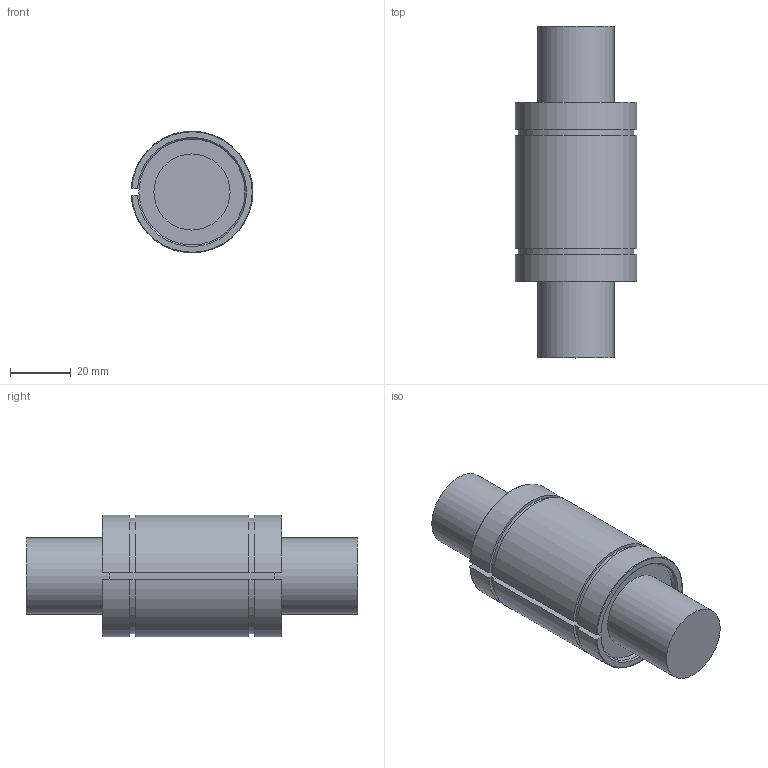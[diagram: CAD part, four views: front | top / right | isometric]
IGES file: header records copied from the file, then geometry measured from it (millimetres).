
Global section: file name: No Iges File Name specified; native system: Autodesk Inventor 2012; preprocessor: AutoDesk Inventor Iges Exporter R2012; author: user2; date: 20130206.101637; units: millimetre
Bounding box: 39.98 x 109 x 39.99 mm (x, y, z)
Volume: 95785.9 mm3; surface area: 15364.5 mm2
Topology: 1 solids, 1 shells, 26 faces, 64 edges, 42 vertices
Faces by surface type: plane 12, cylinder 8, revolution 4, torus 2
Full cylindrical faces by diameter (mm): 25 x2
